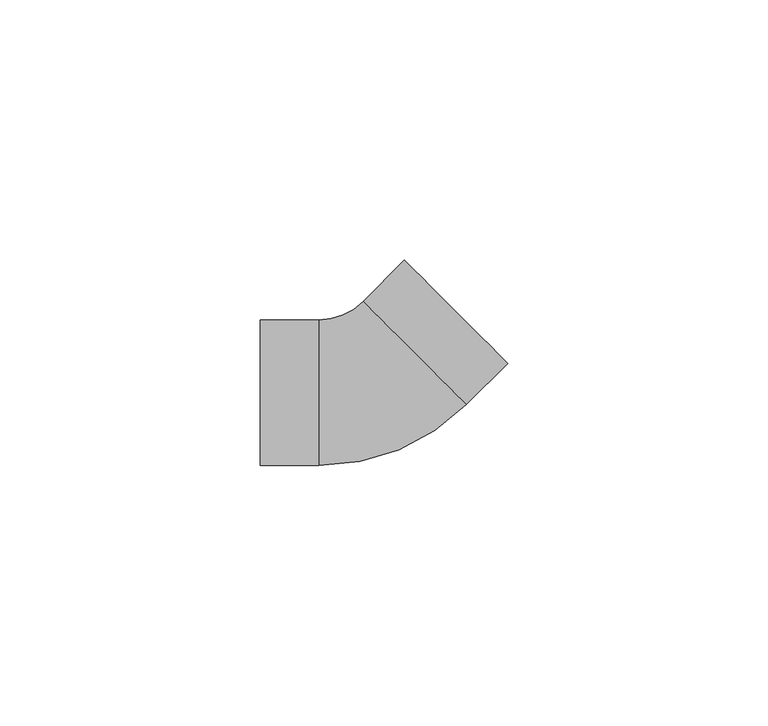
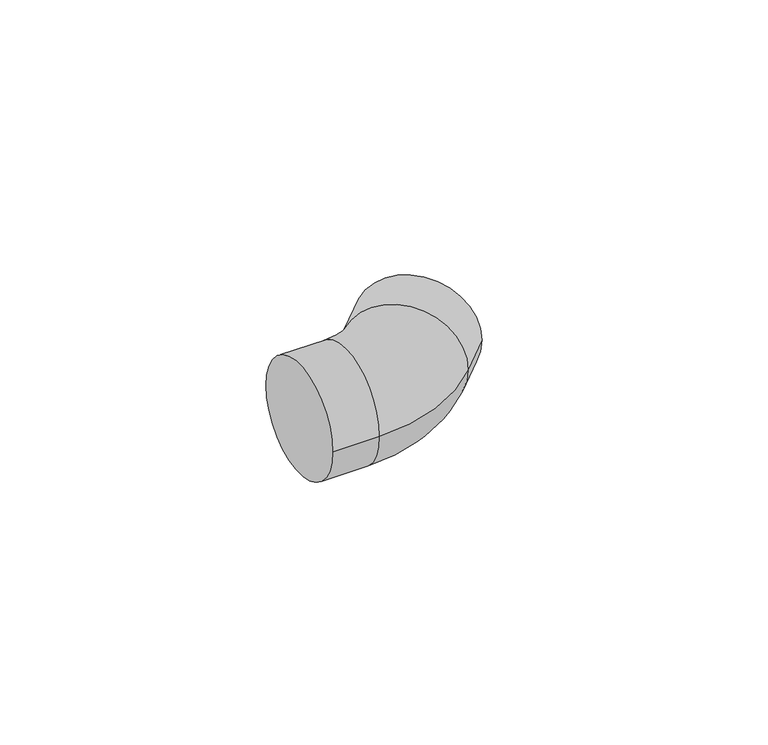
"""IFC4 building model written with IfcOpenShell, lengths in millimetres: pipe fitting geometry, PipeFitting_HTA_CPVC_Elbows : 20mm x 45°."""

from ifc_helpers import new_model, si_unit, point, frame, origin, place, context, project, spatial, circle_curve, ellipse_curve, trimmed, source, transform, mapped, element, save
from ifc_brep_helpers import plane_surface, cylinder_surface, revolved_surface, advanced_brep


def pipe_fitting_bb0708dc(model_context):
    return source(origin(), model_context, "Body", "AdvancedBrep", [
        advanced_brep(
        [(-22.0, -14.0, 0.0), (-22.0, 14.0, 0.0), (-10.7695526, -14.0, 0.0), (-10.7695526, 14.0, 0.0), (-2.2842712, 17.5147186, 0.0), (17.5147186, -2.2842712, 0.0), (25.4558441, 5.6568542, 0.0), (5.6568542, 25.4558441, 0.0)],
        [
            (0, 1, circle_curve(frame((-22.0, 0.0, 0.0), z_axis=(-1.0, 0.0, 0.0), x_axis=(0.0, 1.0, 0.0)), 14.0)),
            (1, 0, circle_curve(frame((-22.0, 0.0, 0.0), z_axis=(-1.0, 0.0, 0.0), x_axis=(0.0, 1.0, 0.0)), 14.0)),
            (0, 2),
            (2, 3, circle_curve(frame((-10.7695526, 0.0, 0.0), z_axis=(-1.0, 0.0, 0.0), x_axis=(0.0, 1.0, 0.0)), 14.0)),
            (3, 1),
            (3, 2, circle_curve(frame((-10.7695526, 0.0, 0.0), z_axis=(-1.0, 0.0, 0.0), x_axis=(0.0, 1.0, 0.0)), 14.0)),
            (4, 3, circle_curve(frame((-10.7695526, 26.0, 0.0), z_axis=(0.0, 0.0, -1.0), x_axis=(0.0, -1.0, 0.0)), 12.0)),
            (2, 5, circle_curve(frame((-10.7695526, 26.0, 0.0), z_axis=(0.0, 0.0, 1.0), x_axis=(0.0, -1.0, 0.0)), 40.0)),
            (5, 4, circle_curve(frame((7.6152237, 7.6152237, 0.0), z_axis=(-0.7071067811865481, -0.7071067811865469, 0.0), x_axis=(-0.7071067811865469, 0.7071067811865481, 0.0)), 14.0)),
            (4, 5, circle_curve(frame((7.6152237, 7.6152237, 0.0), z_axis=(-0.7071067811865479, -0.7071067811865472, 0.0), x_axis=(-0.7071067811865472, 0.7071067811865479, 0.0)), 14.0)),
            (6, 7, circle_curve(frame((15.5563492, 15.5563492, 0.0), z_axis=(0.7071067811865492, 0.7071067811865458, 0.0), x_axis=(-0.7071067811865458, 0.7071067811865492, 0.0)), 14.0)),
            (7, 6, circle_curve(frame((15.5563492, 15.5563492, 0.0), z_axis=(0.7071067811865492, 0.7071067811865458, 0.0), x_axis=(-0.7071067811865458, 0.7071067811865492, 0.0)), 14.0)),
            (5, 6),
            (7, 4),
        ],
        [
            plane_surface(frame((-22.0, 0.0, 0.0), z_axis=(-1.0, 0.0, 0.0), x_axis=(0.0, 0.0, 1.0))),
            cylinder_surface(frame((-22.0, 0.0, 0.0), z_axis=(-1.0, 0.0, 0.0), x_axis=(0.0, 1.0, 0.0)), 14.0),
            revolved_surface(trimmed(ellipse_curve(frame((-10.7695526, 0.0, 0.0), z_axis=(-1.0, 0.0, 0.0), x_axis=(0.0, 1.0, 0.0)), 14.0, 14.0), [point((-10.7695526, -14.0, 0.0))], [point((-10.7695526, 14.0, 0.0))], True, "CARTESIAN"), (-10.7695526, 26.0, 0.0), (0.0, 0.0, 1.0)),
            revolved_surface(trimmed(ellipse_curve(frame((-10.7695526, 0.0, 0.0), z_axis=(-1.0, 0.0, 0.0), x_axis=(0.0, 1.0, 0.0)), 14.0, 14.0), [point((-10.7695526, 14.0, 0.0))], [point((-10.7695526, -14.0, 0.0))], True, "CARTESIAN"), (-10.7695526, 26.0, 0.0), (0.0, 0.0, 1.0)),
            plane_surface(frame((15.5563492, 15.5563492, 0.0), z_axis=(0.7071067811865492, 0.7071067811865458, 0.0), x_axis=(0.0, 0.0, 1.0))),
            cylinder_surface(frame((7.6152237, 7.6152237, 0.0), z_axis=(-0.7071067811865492, -0.7071067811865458, 0.0), x_axis=(-0.7071067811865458, 0.7071067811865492, 0.0)), 14.0),
        ],
        [
            (0, [[1, 2]]),
            (1, [[-1, 3, 4, 5]]),
            (1, [[-2, -5, 6, -3]]),
            (2, [[7, -4, 8, 9]]),
            (3, [[-8, -6, -7, 10]]),
            (4, [[11, 12]]),
            (5, [[-9, 13, -12, 14]]),
            (5, [[-10, -14, -11, -13]]),
        ],
    ),
    ])


if __name__ == "__main__":
    model = new_model("IFC4")
    model_context = context("Model", 3, world=origin())
    ifc_project = project(units=[si_unit("LENGTHUNIT", "METRE", prefix="MILLI")], contexts=[model_context])
    site = spatial("IfcSite", under=ifc_project)
    building = spatial("IfcBuilding", under=site)
    placement = place(None, origin())
    pipe_fitting_shape = pipe_fitting_bb0708dc(model_context)
    element("IfcPipeFitting", 1, ObjectType="PipeFitting_HTA_CPVC_Elbows : 20mm x 45°", at=placement, inside=building, context=model_context, shape_type="MappedRepresentation", body=[
        mapped(pipe_fitting_shape, transform((0.0, 0.0, 0.0), x_axis=(1.0, 0.0, 0.0), y_axis=(0.0, 1.0, 0.0), z_axis=(0.0, 0.0, 1.0))),
    ])
    save(model, "model.ifc")
